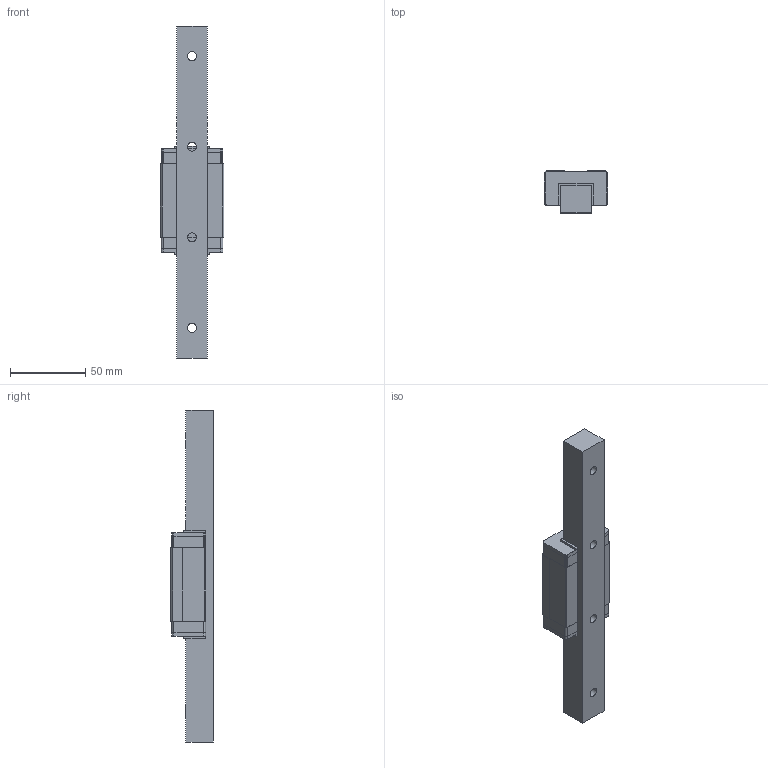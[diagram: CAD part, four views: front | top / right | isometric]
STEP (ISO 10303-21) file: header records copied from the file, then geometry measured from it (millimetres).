
FILE_DESCRIPTION((''),'2;1');
FILE_NAME('E:\PDF郪磁芞\DFS-B\DFS20B.STP','2018-01-31T12:49:57',(''),(''),'STEP Write','Mastercam V9 ... CNC Software, Inc.','');
FILE_SCHEMA(('CONFIG_CONTROL_DESIGN'));
Length unit declared in the file: millimetre
Bounding box: 42 x 28 x 220 mm (x, y, z)
Volume: 124103.2 mm3; surface area: 38791.3 mm2
Topology: 8 solids, 8 shells, 184 faces, 729 edges, 806 vertices
Faces by surface type: plane 92, bspline 68, cylinder 24
Full cylindrical faces by diameter (mm): 4.5 x4, 6 x4, 9.5 x4
Entity records: 7068 total; most frequent: CARTESIAN_POINT 1900, ORIENTED_EDGE 936, DIRECTION 911, EDGE_CURVE 468, VECTOR 455, LINE 455, VERTEX_POINT 320, TRIMMED_CURVE 235
